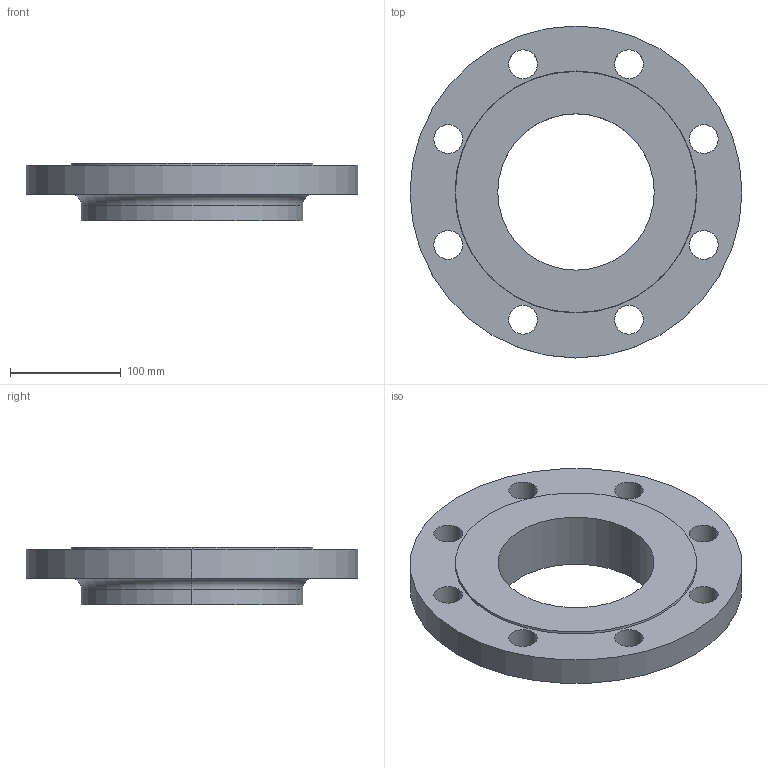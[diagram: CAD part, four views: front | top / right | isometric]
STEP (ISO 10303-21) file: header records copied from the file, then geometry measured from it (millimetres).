
FILE_DESCRIPTION (( 'STEP AP214' ), '1' );
FILE_NAME ('PN40 DN150 Type 13 - Type B Face.STEP', '2019-01-04T21:58:03', ( '' ), ( '' ), 'SwSTEP 2.0', 'SolidWorks 2019', '' );
FILE_SCHEMA (( 'AUTOMOTIVE_DESIGN' ));
Length unit declared in the file: millimetre
Products named in the file (1): PN40 DN150 Type 13 - Type B Face
Bounding box: 300 x 300 x 52 mm (x, y, z)
Volume: 1754183.4 mm3; surface area: 179659.4 mm2
Topology: 1 solids, 1 shells, 30 faces, 76 edges, 50 vertices
Faces by surface type: cylinder 22, plane 4, torus 2, cone 2
Entity records: 1006 total; most frequent: DIRECTION 190, CARTESIAN_POINT 157, ORIENTED_EDGE 152, AXIS2_PLACEMENT_3D 83, EDGE_CURVE 76, CIRCLE 52, EDGE_LOOP 50, VERTEX_POINT 50
